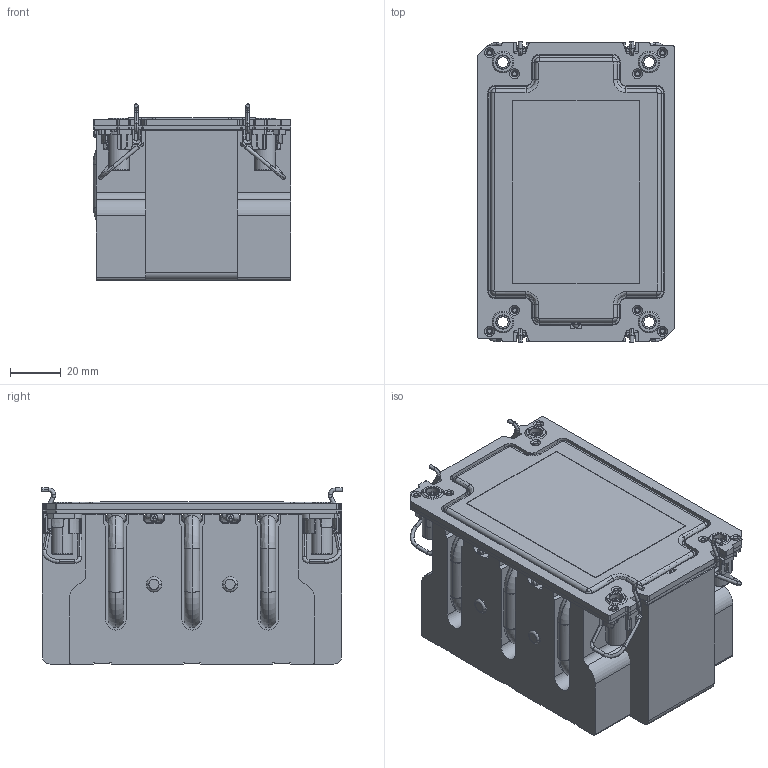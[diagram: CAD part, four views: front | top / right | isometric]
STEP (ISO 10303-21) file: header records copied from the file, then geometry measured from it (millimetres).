
FILE_DESCRIPTION (( 'STEP AP203' ), '1' );
FILE_NAME ('Modeling_ Model S2_1.0_20221124.STEP', '2022-11-24T02:59:01', ( '' ), ( '' ), 'SwSTEP 2.0', 'SolidWorks 2017', '' );
FILE_SCHEMA (( 'CONFIG_CONTROL_DESIGN' ));
Length unit declared in the file: millimetre
Products named in the file (11): stack 724_1_1; 72x50_1; 0.6 Spacer_S_1; N8_081420_1_1_1; 4677-9; 零件12^Modeling_ Model S2_1.0_03112021; mounting screw_1_1_1_1; mounting cap_1_1; 2.5mm retention_S_1; 零件13^Modeling_ Model S2_1.0_03112021; Modeling_ Model S2_1.0_20221124
Assembly tree (14 placements, depth 3):
  Modeling_ Model S2_1.0_20221124
    stack 724_1_1
      N8_081420_1_1_1
    0.6 Spacer_S_1  x4
    mounting cap_1_1  x2
      mounting screw_1_1_1_1
    2.5mm retention_S_1
    72x50_1
    4677-9
    零件12^Modeling_ Model S2_1.0_03112021
    零件13^Modeling_ Model S2_1.0_03112021
Bounding box: 78 x 118.5 x 69.45 mm (x, y, z)
Volume: 601477 mm3; surface area: 178441.8 mm2
Topology: 27 solids, 33 shells, 2305 faces, 6314 edges, 4067 vertices
Faces by surface type: cylinder 940, plane 687, bspline 395, cone 236, torus 47
Entity records: 68752 total; most frequent: CARTESIAN_POINT 27442, ORIENTED_EDGE 8794, DIRECTION 8007, EDGE_CURVE 4397, AXIS2_PLACEMENT_3D 3043, VERTEX_POINT 2843, VECTOR 1921, LINE 1921
